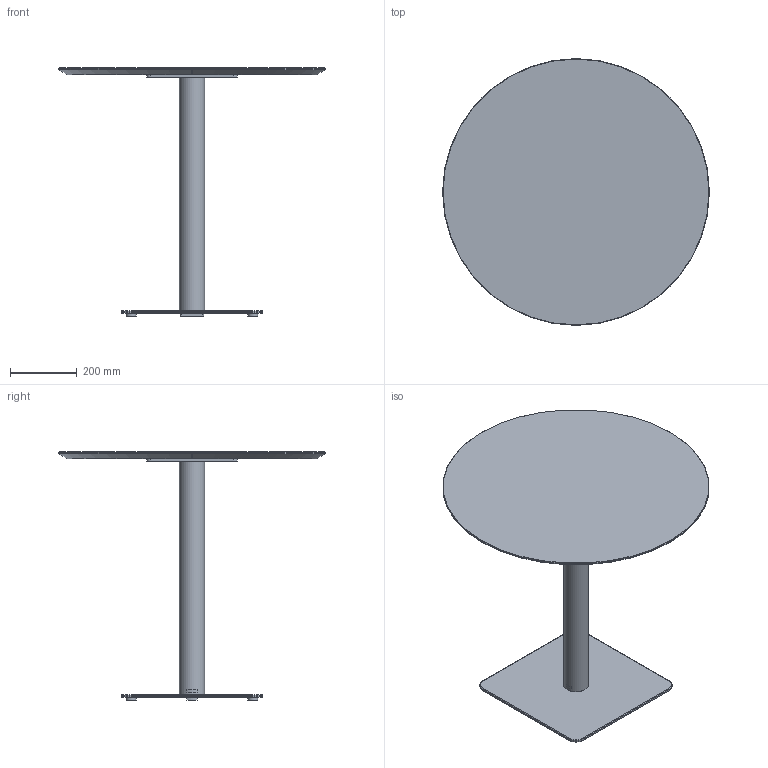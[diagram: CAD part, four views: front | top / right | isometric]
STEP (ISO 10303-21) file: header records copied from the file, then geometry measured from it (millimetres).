
FILE_DESCRIPTION( ('This file contains a STEP AP42 implementation' ,'as created by ZW3D STEP Interface translator.') ,'2;1' );
FILE_NAME( 'Henri - B_Carré - F1 - M5 - 800 x 800 x 750.stp' ,'24 912.162637', (''), ('ZWCAD Software Co.'), 'Version 1.0', 'ZW3D to STEP translator', '' );
FILE_SCHEMA(('AUTOMOTIVE_DESIGN { 1 0 10303 214 1 1 1 1 }'));
Length unit declared in the file: millimetre
Products named in the file (14): 0; PIED BISTROT PARAMETRIQUE_; COLONNE ACIER Ø76 V.02_; TUB-D076-02_; PLA-R76B-01_; CROIX ACIER 370 V.02_; CRX-X370-02_; SOCLE ACIER L 425x425 V.02_; SCL-R425-02_; PLA-R30A-01_; PLA-R30A-01; WUERTH 0276063020 Euro-screw 6.3x2 Verzinkt_; PLATEAU BISTROT PARAMETRIQUE_; insert_m6_13_
Assembly tree (22 placements, depth 3):
  0
  PIED BISTROT PARAMETRIQUE_
    COLONNE ACIER Ø76 V.02_
      TUB-D076-02_
      PLA-R76B-01_  x2
    CROIX ACIER 370 V.02_
      CRX-X370-02_
    SOCLE ACIER L 425x425 V.02_
      SCL-R425-02_
      PLA-R30A-01_
      PLA-R30A-01  x3
    WUERTH 0276063020 Euro-screw 6.3x2 Verzinkt_
    PLATEAU BISTROT PARAMETRIQUE_
      insert_m6_13_  x8
Bounding box: 800 x 800 x 744 mm (x, y, z)
Volume: 11955645.7 mm3; surface area: 1919415.6 mm2
Topology: 19 solids, 19 shells, 537 faces, 1310 edges, 822 vertices
Faces by surface type: plane 262, bspline 121, cylinder 98, cone 55, torus 1
Full cylindrical faces by diameter (mm): 4.88 x1, 6 x8, 6.3 x1, 8 x45, 12 x2, 14 x2, 30 x4, 72 x1, 76 x1
Entity records: 12310 total; most frequent: CARTESIAN_POINT 3396, ORIENTED_EDGE 1624, DIRECTION 1519, EDGE_CURVE 812, VERTEX_POINT 518, VECTOR 513, LINE 513, AXIS2_PLACEMENT_3D 503
